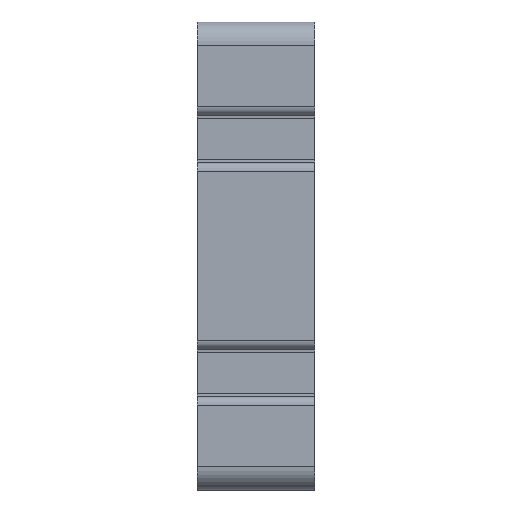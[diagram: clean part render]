
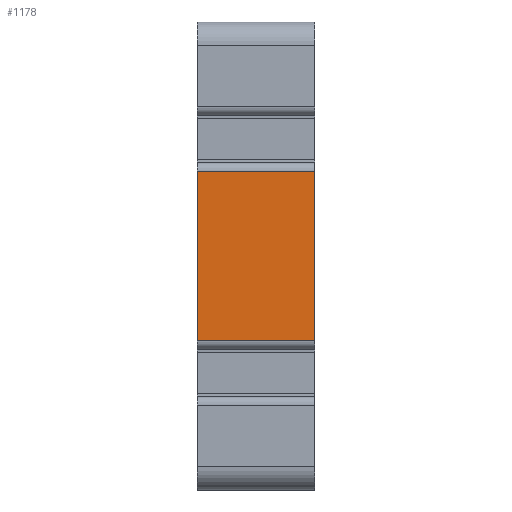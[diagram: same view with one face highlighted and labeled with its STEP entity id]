
A CAD part, left-side view. The second image highlights one B-rep face of the part: STEP entity #1178.
In plain terms, the highlighted planar face has unit normal (-1, 0, 0).
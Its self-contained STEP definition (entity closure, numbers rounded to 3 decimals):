
#1178=ADVANCED_FACE('',(#2445),#2446,.T.);
#2445=FACE_OUTER_BOUND('',#3802,.T.);
#2446=PLANE('',#3803);
#3802=EDGE_LOOP('',(#7285,#7286,#7287,#7288));
#3803=AXIS2_PLACEMENT_3D('',#7289,#7290,#7291);
#7285=ORIENTED_EDGE('',*,*,#9911,.T.);
#7286=ORIENTED_EDGE('',*,*,#9940,.T.);
#7287=ORIENTED_EDGE('',*,*,#9941,.T.);
#7288=ORIENTED_EDGE('',*,*,#9258,.F.);
#7289=CARTESIAN_POINT('',(-60.0,10.0,0.0));
#7290=DIRECTION('',(-1.0,0.0,0.0));
#7291=DIRECTION('',(0.0,0.0,-1.0));
#9258=EDGE_CURVE('',#11441,#11443,#11444,.T.);
#9911=EDGE_CURVE('',#11441,#12429,#12432,.T.);
#9940=EDGE_CURVE('',#12429,#12469,#12470,.T.);
#9941=EDGE_CURVE('',#12469,#11443,#12471,.T.);
#11441=VERTEX_POINT('',#14449);
#11443=VERTEX_POINT('',#14451);
#11444=LINE('',#14452,#14453);
#12429=VERTEX_POINT('',#15764);
#12432=LINE('',#15767,#15768);
#12469=VERTEX_POINT('',#15819);
#12470=LINE('',#15820,#15821);
#12471=LINE('',#15822,#15823);
#14449=CARTESIAN_POINT('',(-60.,10.0,-14.5));
#14451=CARTESIAN_POINT('',(-60.0,10.0,14.5));
#14452=CARTESIAN_POINT('',(-60.0,10.0,-36.0));
#14453=VECTOR('',#17381,1.0);
#15764=CARTESIAN_POINT('',(-60.,-10.0,-14.5));
#15767=CARTESIAN_POINT('',(-60.0,10.0,-14.5));
#15768=VECTOR('',#18209,1.0);
#15819=CARTESIAN_POINT('',(-60.0,-10.0,14.5));
#15820=CARTESIAN_POINT('',(-60.0,-10.0,-36.0));
#15821=VECTOR('',#18236,1.0);
#15822=CARTESIAN_POINT('',(-60.0,0.0,14.5));
#15823=VECTOR('',#18237,1.0);
#17381=DIRECTION('',(0.0,0.0,1.0));
#18209=DIRECTION('',(0.0,-1.0,0.0));
#18236=DIRECTION('',(0.0,0.0,1.0));
#18237=DIRECTION('',(-0.0,1.0,0.0));
